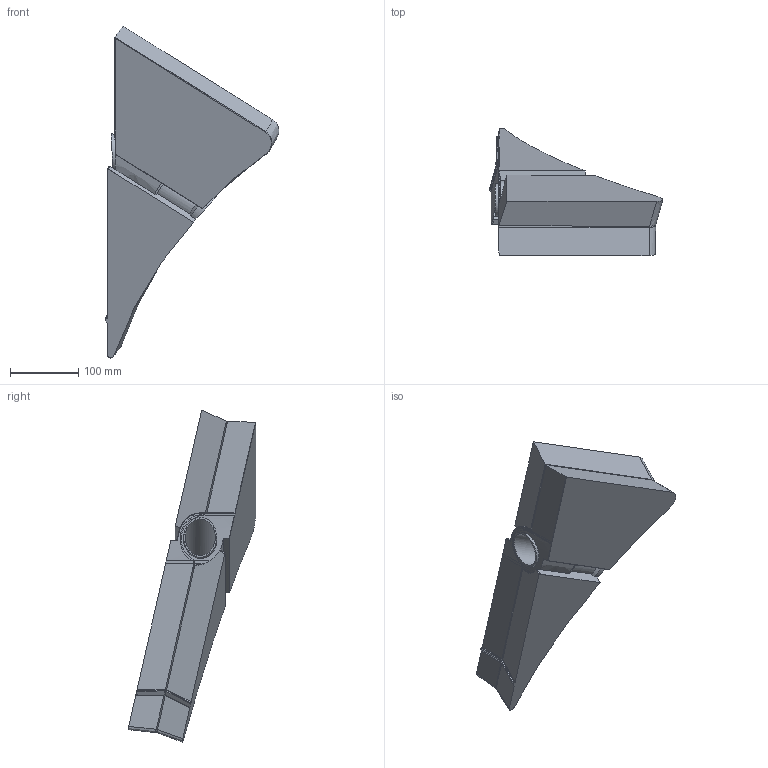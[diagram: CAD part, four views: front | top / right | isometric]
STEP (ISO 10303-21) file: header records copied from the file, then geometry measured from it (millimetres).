
FILE_DESCRIPTION(('STEP AP214'),'1');
FILE_NAME('CUNEO CHIUSO.stp','2019-01-30T13:04:45',(' '),(' '),'Spatial InterOp 3D',' ',' ');
FILE_SCHEMA(('AUTOMOTIVE_DESIGN { 1 0 10303 214 1 1 1 1 }'));
Length unit declared in the file: metre
Products named in the file (1): 1
Bounding box: 254.38 x 186.61 x 485.85 mm (x, y, z)
Volume: 3904364.2 mm3; surface area: 346809.1 mm2
Topology: 1 solids, 1 shells, 285 faces, 775 edges, 479 vertices
Faces by surface type: bspline 93, cylinder 85, plane 74, cone 14, sphere 13, torus 5, extrusion 1
Full cylindrical faces by diameter (mm): 44 x1, 48 x1, 49 x1
Entity records: 25732 total; most frequent: CARTESIAN_POINT 17005, ORIENTED_EDGE 1508, DIRECTION 1143, EDGE_CURVE 754, VERTEX_POINT 476, AXIS2_PLACEMENT_3D 439, EDGE_LOOP 292, FACE_OUTER_BOUND 288
